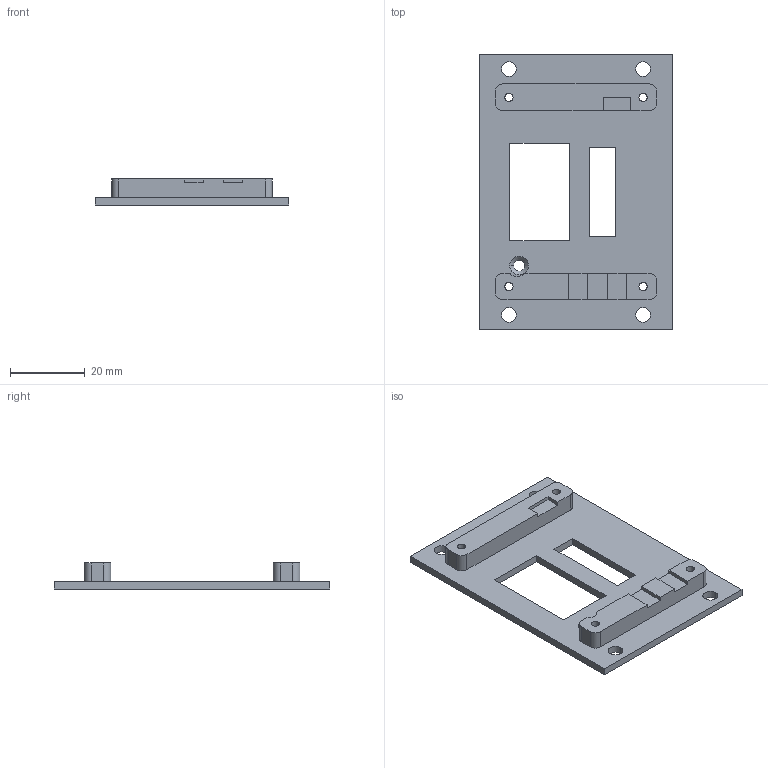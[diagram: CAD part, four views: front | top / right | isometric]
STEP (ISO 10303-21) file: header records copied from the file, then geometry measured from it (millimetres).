
FILE_DESCRIPTION(('CATIA V5 STEP Exchange'),'2;1');
FILE_NAME('X:\XDrive\---CAD---\--- 3D Drucker ---\K40\W3001_Einbaurahmen.stp','2023-03-20T15:07:06+00:00',('none'),('none'),'CATIA Version 5 Release 19 SP 2 (IN-10)','CATIA V5 STEP AP203','none');
FILE_SCHEMA(('CONFIG_CONTROL_DESIGN'));
Length unit declared in the file: millimetre
Products named in the file (1): W3001_Einbaurahmen
Bounding box: 52 x 74 x 7 mm (x, y, z)
Volume: 9255.9 mm3; surface area: 8472.2 mm2
Topology: 1 solids, 1 shells, 66 faces, 187 edges, 124 vertices
Faces by surface type: plane 37, cylinder 27, cone 2
Entity records: 2098 total; most frequent: ORIENTED_EDGE 374, CARTESIAN_POINT 367, DIRECTION 283, EDGE_CURVE 187, VECTOR 128, LINE 128, VERTEX_POINT 124, AXIS2_PLACEMENT_3D 107
